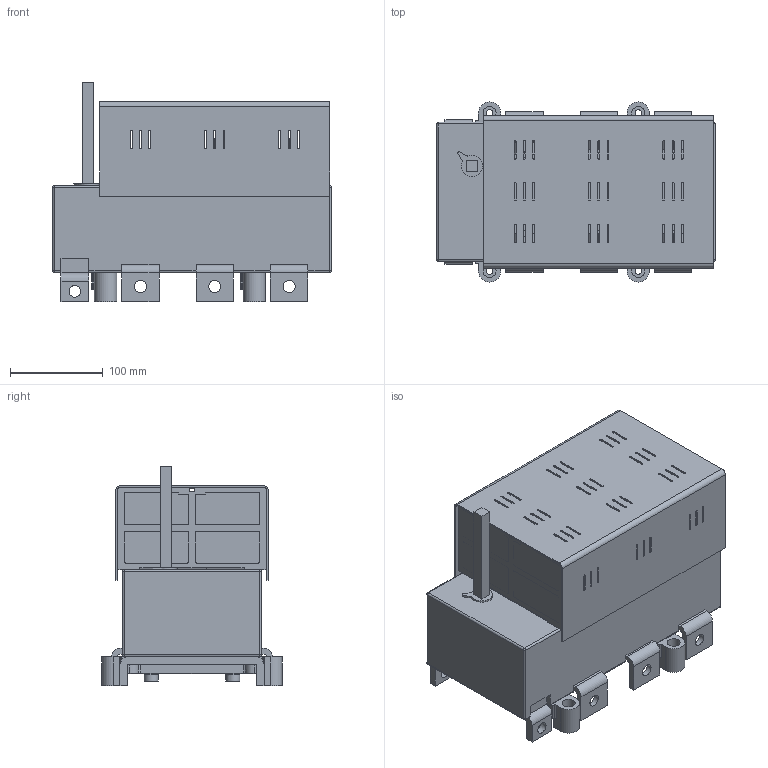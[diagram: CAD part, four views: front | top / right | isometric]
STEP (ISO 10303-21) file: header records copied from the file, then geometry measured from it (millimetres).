
FILE_DESCRIPTION(/* description */ (''),/* implementation_level */ '2;1');
FILE_NAME(/* name */ 'RAB 3 P3 N C.stp',/* time_stamp */ '2021-08-19T15:10:57+02:00',/* author */ (''),/* organization */ (''),/* preprocessor_version */ 'ST-DEVELOPER v18.1',/* originating_system */ 'SIEMENS PLM Software NX 1965',/* authorisation */ '');
FILE_SCHEMA (('AUTOMOTIVE_DESIGN { 1 0 10303 214 3 1 1 1 }'));
Length unit declared in the file: millimetre
Products named in the file (1): RAB 3 P3 N C_stp
Bounding box: 300 x 194 x 236 mm (x, y, z)
Volume: 4506811 mm3; surface area: 641015.4 mm2
Topology: 1 solids, 13 shells, 1589 faces, 4314 edges, 2766 vertices
Faces by surface type: plane 921, cylinder 558, bspline 50, torus 44, cone 8, sphere 8
Full cylindrical faces by diameter (mm): 3 x4, 4.8 x4, 5.2 x2, 5.6 x4, 6.5 x26, 7 x4, 10.5 x26, 12.5 x2, 13 x6, 13.5 x4, 14 x4, 15 x4
Entity records: 51857 total; most frequent: CARTESIAN_POINT 11566, DIRECTION 8340, ORIENTED_EDGE 8320, EDGE_CURVE 4160, LINE 2820, VECTOR 2820, AXIS2_PLACEMENT_3D 2760, VERTEX_POINT 2738
